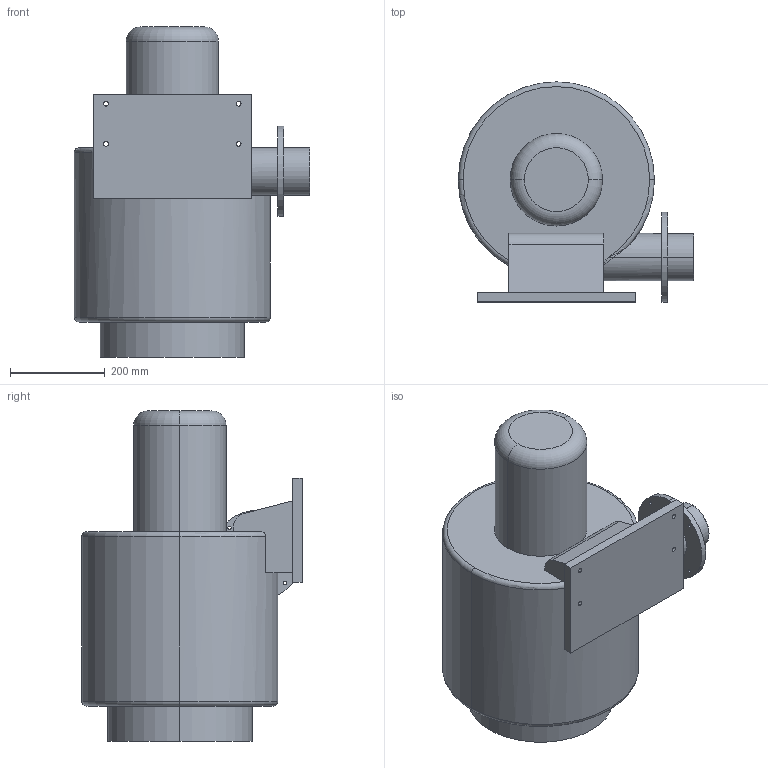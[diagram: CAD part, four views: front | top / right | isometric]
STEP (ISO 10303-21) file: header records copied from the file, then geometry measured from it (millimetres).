
FILE_DESCRIPTION (( 'STEP AP203' ), '1' );
FILE_NAME ('3700-100-5.STEP', '2019-05-09T03:27:52', ( 'User' ), ( 'www.dadighost.com' ), 'SwSTEP 2.0', 'SolidWorks 2014', '' );
FILE_SCHEMA (( 'CONFIG_CONTROL_DESIGN' ));
Length unit declared in the file: millimetre
Products named in the file (1): 3700-100-5
Bounding box: 497 x 465 x 697 mm (x, y, z)
Volume: 66101102.7 mm3; surface area: 1266711.4 mm2
Topology: 1 solids, 1 shells, 61 faces, 151 edges, 98 vertices
Faces by surface type: cylinder 32, plane 20, torus 9
Entity records: 2188 total; most frequent: CARTESIAN_POINT 573, DIRECTION 342, ORIENTED_EDGE 302, EDGE_CURVE 151, AXIS2_PLACEMENT_3D 140, VERTEX_POINT 98, EDGE_LOOP 83, CIRCLE 78
